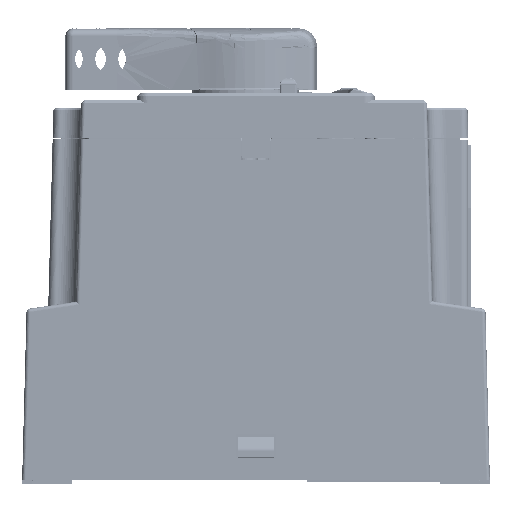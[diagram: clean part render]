
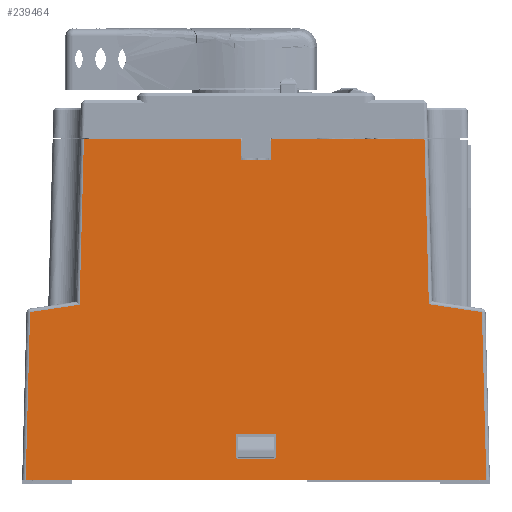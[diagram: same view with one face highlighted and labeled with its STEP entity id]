
A CAD part, left-side view. The second image highlights one B-rep face of the part: STEP entity #239464.
In plain terms, the highlighted planar face has unit normal (-1, 0, 0.017) as drawn and (1, 0, 0.017) by its records, which use the part's own axes.
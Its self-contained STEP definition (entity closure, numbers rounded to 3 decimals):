
#225928=DIRECTION('',(-0.017,0.,1.));
#225929=VECTOR('',#225928,6.001);
#225930=CARTESIAN_POINT('',(53.478,-4.25,88.8));
#225931=LINE('',#225930,#225929);
#228378=CARTESIAN_POINT('',(54.165,-49.022,
48.708));
#228395=DIRECTION('',(-0.017,0.026,1.));
#228396=VECTOR('',#228395,46.675);
#228397=CARTESIAN_POINT('',(55.,-64.,0.));
#228398=LINE('',#228397,#228396);
#228399=DIRECTION('',(-0.003,0.989,0.148));
#228400=VECTOR('',#228399,13.909);
#228401=CARTESIAN_POINT('',(54.2,-62.778,
46.652));
#228402=LINE('',#228401,#228400);
#228403=DIRECTION('',(-0.017,0.026,1.));
#228404=VECTOR('',#228403,46.115);
#228405=CARTESIAN_POINT('',(54.165,-49.022,
48.708));
#228406=LINE('',#228405,#228404);
#228407=DIRECTION('',(0.,1.,0.));
#228408=VECTOR('',#228407,43.565);
#228409=CARTESIAN_POINT('',(53.375,-47.815,94.8));
#228410=LINE('',#228409,#228408);
#228411=DIRECTION('',(0.,1.,0.));
#228412=VECTOR('',#228411,8.5);
#228413=CARTESIAN_POINT('',(53.478,-4.25,88.8));
#228414=LINE('',#228413,#228412);
#228415=DIRECTION('',(0.,1.,0.));
#228416=VECTOR('',#228415,42.569);
#228417=CARTESIAN_POINT('',(53.375,4.25,94.8));
#228418=LINE('',#228417,#228416);
#228419=DIRECTION('',(0.017,0.026,-1.));
#228420=VECTOR('',#228419,45.965);
#228421=CARTESIAN_POINT('',(53.375,46.819,94.8));
#228422=LINE('',#228421,#228420);
#228423=DIRECTION('',(0.003,0.989,-0.148));
#228424=VECTOR('',#228423,14.92);
#228425=CARTESIAN_POINT('',(54.162,48.022,
48.857));
#228426=LINE('',#228425,#228424);
#228427=DIRECTION('',(0.017,0.026,-1.));
#228428=VECTOR('',#228427,46.675);
#228429=CARTESIAN_POINT('',(54.2,62.778,
46.652));
#228430=LINE('',#228429,#228428);
#228431=DIRECTION('',(0.,-1.,0.));
#228432=VECTOR('',#228431,128.);
#228433=CARTESIAN_POINT('',(55.,64.,0.));
#228434=LINE('',#228433,#228432);
#228435=DIRECTION('',(0.,-1.,0.));
#228436=VECTOR('',#228435,11.);
#228437=CARTESIAN_POINT('',(54.781,5.5,12.8));
#228438=LINE('',#228437,#228436);
#228439=DIRECTION('',(0.,1.,0.));
#228440=VECTOR('',#228439,10.);
#228441=CARTESIAN_POINT('',(54.901,-5.,5.8));
#228442=LINE('',#228441,#228440);
#230660=DIRECTION('',(0.017,0.,-1.));
#230661=VECTOR('',#230660,6.001);
#230662=CARTESIAN_POINT('',(53.375,4.25,94.8));
#230663=LINE('',#230662,#230661);
#231156=DIRECTION('',(0.017,0.,-1.));
#231157=VECTOR('',#231156,6.501);
#231158=CARTESIAN_POINT('',(54.781,5.5,12.8));
#231159=LINE('',#231158,#231157);
#231169=CARTESIAN_POINT('',(54.892,5.5,6.3));
#231170=CARTESIAN_POINT('',(54.895,5.5,6.133));
#231171=CARTESIAN_POINT('',(54.898,5.374,
5.926));
#231172=CARTESIAN_POINT('',(54.901,5.167,5.8));
#231173=CARTESIAN_POINT('',(54.901,5.,5.8));
#231192=CARTESIAN_POINT('',(54.901,-5.,5.8));
#231193=CARTESIAN_POINT('',(54.901,-5.167,5.8));
#231194=CARTESIAN_POINT('',(54.898,-5.374,
5.926));
#231195=CARTESIAN_POINT('',(54.895,-5.5,6.133));
#231196=CARTESIAN_POINT('',(54.892,-5.5,6.3));
#231206=DIRECTION('',(-0.017,0.,1.));
#231207=VECTOR('',#231206,6.501);
#231208=CARTESIAN_POINT('',(54.892,-5.5,6.3));
#231209=LINE('',#231208,#231207);
#232488=CARTESIAN_POINT('',(54.2,-62.778,
46.652));
#232489=VERTEX_POINT('',#232488);
#232490=VERTEX_POINT('',#228378);
#232491=CARTESIAN_POINT('',(53.375,-47.815,94.8));
#232492=VERTEX_POINT('',#232491);
#232495=CARTESIAN_POINT('',(55.,-64.,0.));
#232496=VERTEX_POINT('',#232495);
#232497=CARTESIAN_POINT('',(53.375,-4.25,94.8));
#232498=VERTEX_POINT('',#232497);
#232499=CARTESIAN_POINT('',(53.478,-4.25,88.8));
#232500=VERTEX_POINT('',#232499);
#232501=CARTESIAN_POINT('',(53.478,4.25,88.8));
#232502=VERTEX_POINT('',#232501);
#232503=CARTESIAN_POINT('',(53.375,4.25,94.8));
#232504=VERTEX_POINT('',#232503);
#232505=CARTESIAN_POINT('',(53.375,46.819,94.8));
#232506=VERTEX_POINT('',#232505);
#232507=CARTESIAN_POINT('',(54.162,48.022,
48.857));
#232508=VERTEX_POINT('',#232507);
#232509=CARTESIAN_POINT('',(54.2,62.778,
46.652));
#232510=VERTEX_POINT('',#232509);
#232511=CARTESIAN_POINT('',(55.,64.,0.));
#232512=VERTEX_POINT('',#232511);
#232513=CARTESIAN_POINT('',(54.781,5.5,12.8));
#232514=CARTESIAN_POINT('',(54.892,5.5,6.3));
#232515=VERTEX_POINT('',#232513);
#232516=VERTEX_POINT('',#232514);
#232517=CARTESIAN_POINT('',(54.781,-5.5,12.8));
#232518=VERTEX_POINT('',#232517);
#232519=CARTESIAN_POINT('',(54.892,-5.5,6.3));
#232520=VERTEX_POINT('',#232519);
#232521=VERTEX_POINT('',#231192);
#232522=CARTESIAN_POINT('',(54.901,5.,5.8));
#232523=VERTEX_POINT('',#232522);
#239426=CARTESIAN_POINT('',(53.107,-65.,110.447));
#239427=DIRECTION('',(-1.,0.,-0.017));
#239428=DIRECTION('',(0.017,0.,-1.));
#239429=AXIS2_PLACEMENT_3D('',#239426,#239427,#239428);
#239430=PLANE('',#239429);
#239432=ORIENTED_EDGE('',*,*,#239431,.T.);
#239433=ORIENTED_EDGE('',*,*,#239407,.T.);
#239434=ORIENTED_EDGE('',*,*,#239417,.T.);
#239435=ORIENTED_EDGE('',*,*,#235654,.T.);
#239436=ORIENTED_EDGE('',*,*,#235977,.F.);
#239438=ORIENTED_EDGE('',*,*,#239437,.T.);
#239440=ORIENTED_EDGE('',*,*,#239439,.F.);
#239441=ORIENTED_EDGE('',*,*,#236133,.T.);
#239443=ORIENTED_EDGE('',*,*,#239442,.T.);
#239445=ORIENTED_EDGE('',*,*,#239444,.T.);
#239446=ORIENTED_EDGE('',*,*,#237106,.T.);
#239447=ORIENTED_EDGE('',*,*,#237157,.T.);
#239448=EDGE_LOOP('',(#239432,#239433,#239434,#239435,#239436,#239438,#239440,
#239441,#239443,#239445,#239446,#239447));
#239449=FACE_OUTER_BOUND('',#239448,.F.);
#239451=ORIENTED_EDGE('',*,*,#239450,.F.);
#239453=ORIENTED_EDGE('',*,*,#239452,.T.);
#239455=ORIENTED_EDGE('',*,*,#239454,.F.);
#239457=ORIENTED_EDGE('',*,*,#239456,.F.);
#239459=ORIENTED_EDGE('',*,*,#239458,.T.);
#239461=ORIENTED_EDGE('',*,*,#239460,.F.);
#239462=EDGE_LOOP('',(#239451,#239453,#239455,#239457,#239459,#239461));
#239463=FACE_BOUND('',#239462,.F.);
#239464=ADVANCED_FACE('',(#239449,#239463),#239430,.F.);
#231174=B_SPLINE_CURVE_WITH_KNOTS('',3,(#231169,#231170,#231171,#231172,
#231173),.UNSPECIFIED.,.F.,.F.,(4,1,4),(0.,0.5,1.),.UNSPECIFIED.);
#231197=B_SPLINE_CURVE_WITH_KNOTS('',3,(#231192,#231193,#231194,#231195,
#231196),.UNSPECIFIED.,.F.,.F.,(4,1,4),(0.,0.5,1.),.UNSPECIFIED.);
#235654=EDGE_CURVE('',#232492,#232498,#228410,.T.);
#235977=EDGE_CURVE('',#232500,#232498,#225931,.T.);
#236133=EDGE_CURVE('',#232504,#232506,#228418,.T.);
#237106=EDGE_CURVE('',#232510,#232512,#228430,.T.);
#237157=EDGE_CURVE('',#232512,#232496,#228434,.T.);
#239407=EDGE_CURVE('',#232489,#232490,#228402,.T.);
#239417=EDGE_CURVE('',#232490,#232492,#228406,.T.);
#239431=EDGE_CURVE('',#232496,#232489,#228398,.T.);
#239437=EDGE_CURVE('',#232500,#232502,#228414,.T.);
#239439=EDGE_CURVE('',#232504,#232502,#230663,.T.);
#239442=EDGE_CURVE('',#232506,#232508,#228422,.T.);
#239444=EDGE_CURVE('',#232508,#232510,#228426,.T.);
#239450=EDGE_CURVE('',#232515,#232516,#231159,.T.);
#239452=EDGE_CURVE('',#232515,#232518,#228438,.T.);
#239454=EDGE_CURVE('',#232520,#232518,#231209,.T.);
#239456=EDGE_CURVE('',#232521,#232520,#231197,.T.);
#239458=EDGE_CURVE('',#232521,#232523,#228442,.T.);
#239460=EDGE_CURVE('',#232516,#232523,#231174,.T.);
